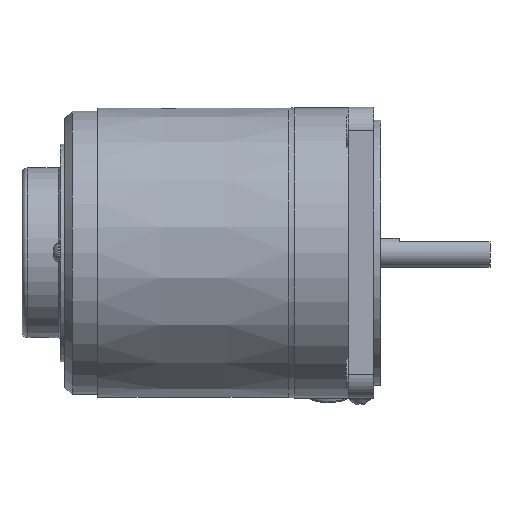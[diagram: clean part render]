
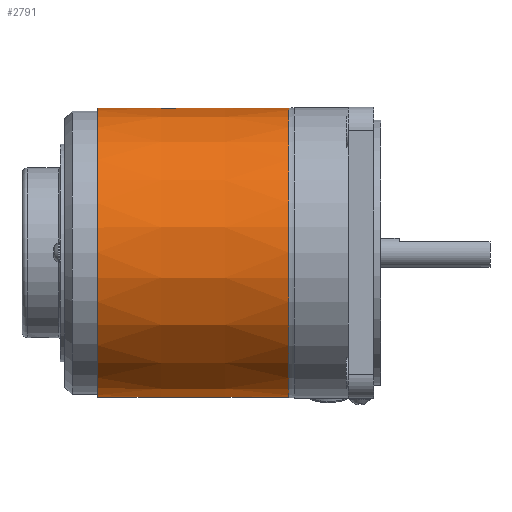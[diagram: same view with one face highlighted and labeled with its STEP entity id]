
A CAD part, top view. The second image highlights one B-rep face of the part: STEP entity #2791.
In plain terms, the highlighted conical face has half-angle 0.073 degrees and reference radius 39.784 mm.
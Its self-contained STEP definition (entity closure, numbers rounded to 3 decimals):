
#19=CONICAL_SURFACE('',#3031,39.784,0.073);
#121=FACE_BOUND('',#606,.T.);
#267=CIRCLE('',#3030,39.75);
#268=CIRCLE('',#3032,39.817);
#402=FACE_OUTER_BOUND('',#605,.T.);
#605=EDGE_LOOP('',(#2128));
#606=EDGE_LOOP('',(#2129));
#1257=VERTEX_POINT('',#4545);
#1258=VERTEX_POINT('',#4548);
#1572=EDGE_CURVE('',#1257,#1257,#267,.T.);
#1573=EDGE_CURVE('',#1258,#1258,#268,.T.);
#2128=ORIENTED_EDGE('',*,*,#1573,.F.);
#2129=ORIENTED_EDGE('',*,*,#1572,.T.);
#2791=ADVANCED_FACE('',(#402,#121),#19,.T.);
#3030=AXIS2_PLACEMENT_3D('',#4546,#3579,#3580);
#3031=AXIS2_PLACEMENT_3D('',#4547,#3581,#3582);
#3032=AXIS2_PLACEMENT_3D('',#4549,#3583,#3584);
#3579=DIRECTION('center_axis',(1.,0.,0.));
#3580=DIRECTION('ref_axis',(0.,1.,0.));
#3581=DIRECTION('center_axis',(1.,0.,0.));
#3582=DIRECTION('ref_axis',(0.,1.,0.));
#3583=DIRECTION('center_axis',(1.,0.,0.));
#3584=DIRECTION('ref_axis',(0.,1.,0.));
#4545=CARTESIAN_POINT('',(9.,39.75,0.));
#4546=CARTESIAN_POINT('Origin',(9.,0.,0.));
#4547=CARTESIAN_POINT('Origin',(35.288,0.,0.));
#4548=CARTESIAN_POINT('',(61.576,39.817,0.));
#4549=CARTESIAN_POINT('Origin',(61.576,0.,0.));
